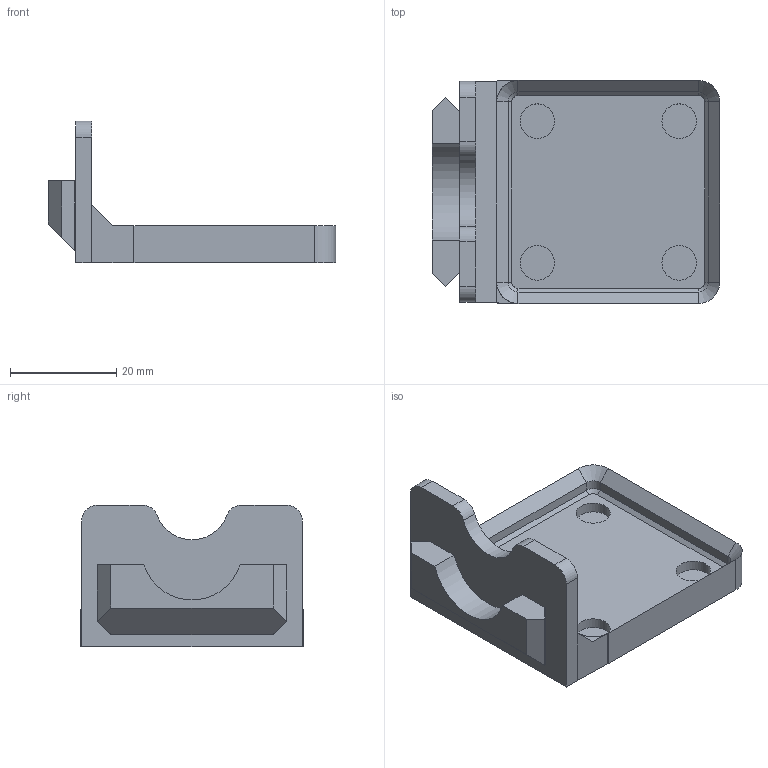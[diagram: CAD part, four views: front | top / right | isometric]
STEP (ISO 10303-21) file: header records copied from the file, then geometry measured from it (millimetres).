
FILE_DESCRIPTION(/* description */ ('','CAx-IF Rec.Pracs.---Representation and Presentation of Product Manufacturing Information (PMI)---4.0---2014-10-13'),/* implementation_level */ '2;1');
FILE_NAME(/* name */ 'Goews Single Hanger Gridfinity with Magnets 1x1 Base v6 (1).step',/* time_stamp */ '2024-12-07T22:43:11-05:00',/* author */ (''),/* organization */ (''),/* preprocessor_version */ 'ST-DEVELOPER v20',/* originating_system */ 'Autodesk Translation Framework v13.20.0.188',/* authorisation */ '');
FILE_SCHEMA (('AP242_MANAGED_MODEL_BASED_3D_ENGINEERING_MIM_LF { 1 0 10303 442 1 1 4 }'));
Length unit declared in the file: millimetre
Products named in the file (1): Goews Single Hanger Gridfinity  with Magnets 1x1 Base v6 (1)
Bounding box: 54.15 x 42 x 26.72 mm (x, y, z)
Volume: 11099.8 mm3; surface area: 7927.2 mm2
Topology: 1 solids, 1 shells, 70 faces, 159 edges, 96 vertices
Faces by surface type: plane 44, cylinder 18, cone 8
Full cylindrical faces by diameter (mm): 6.5 x4
Entity records: 1958 total; most frequent: DIRECTION 343, CARTESIAN_POINT 326, ORIENTED_EDGE 318, EDGE_CURVE 159, LINE 117, VECTOR 117, AXIS2_PLACEMENT_3D 113, VERTEX_POINT 96
